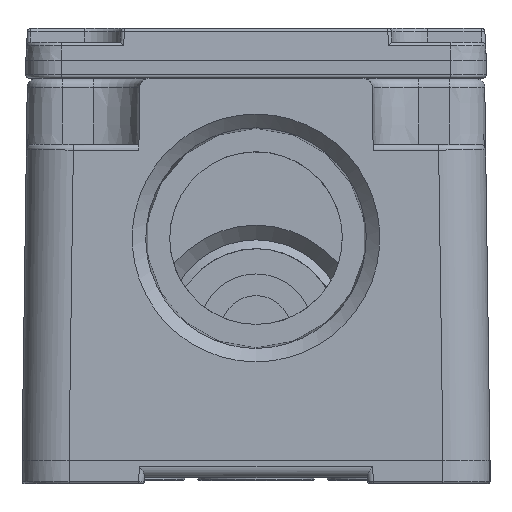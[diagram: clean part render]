
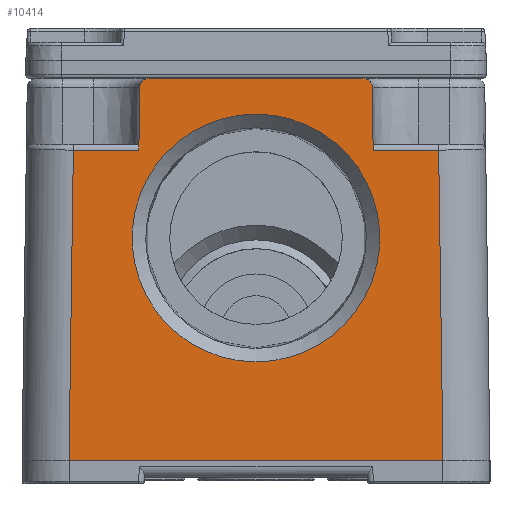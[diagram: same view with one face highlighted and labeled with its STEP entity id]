
A CAD part, left-side view. The second image highlights one B-rep face of the part: STEP entity #10414.
In plain terms, the highlighted planar face has unit normal (-1, 0, 0.011).
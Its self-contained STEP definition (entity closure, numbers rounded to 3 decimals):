
#7232 = VERTEX_POINT('',#7233);
#7233 = CARTESIAN_POINT('',(-26.671,8.705,
    17.42));
#7239 = EDGE_CURVE('',#7232,#7240,#7242,.T.);
#7240 = VERTEX_POINT('',#7241);
#7241 = CARTESIAN_POINT('',(-26.671,-9.482,
    17.42));
#7242 = LINE('',#7243,#7244);
#7243 = CARTESIAN_POINT('',(-26.671,-0.389,
    17.42));
#7244 = VECTOR('',#7245,1.);
#7245 = DIRECTION('',(0.,-1.,0.));
#7398 = EDGE_CURVE('',#7399,#7401,#7403,.T.);
#7399 = VERTEX_POINT('',#7400);
#7400 = CARTESIAN_POINT('',(-26.735,15.156,11.325
    ));
#7401 = VERTEX_POINT('',#7402);
#7402 = CARTESIAN_POINT('',(-27.011,15.525,
    -15.08));
#7403 = LINE('',#7404,#7405);
#7404 = CARTESIAN_POINT('',(-27.009,15.522,
    -14.858));
#7405 = VECTOR('',#7406,1.);
#7406 = DIRECTION('',(-0.01,0.014,
    -1.));
#8994 = VERTEX_POINT('',#8995);
#8995 = CARTESIAN_POINT('',(-27.011,-16.302,
    -15.08));
#9001 = EDGE_CURVE('',#8994,#7401,#9002,.T.);
#9002 = LINE('',#9003,#9004);
#9003 = CARTESIAN_POINT('',(-27.011,-0.389,
    -15.08));
#9004 = VECTOR('',#9005,1.);
#9005 = DIRECTION('',(0.,1.,0.));
#10414 = ADVANCED_FACE('',(#10415,#10440),#10499,.F.);
#10415 = FACE_BOUND('',#10416,.T.);
#10416 = EDGE_LOOP('',(#10417));
#10417 = ORIENTED_EDGE('',*,*,#10418,.T.);
#10418 = EDGE_CURVE('',#10419,#10419,#10421,.T.);
#10419 = VERTEX_POINT('',#10420);
#10420 = CARTESIAN_POINT('',(-26.924,-0.389,
    -6.704));
#10421 = B_SPLINE_CURVE_WITH_KNOTS('',3,(#10422,#10423,#10424,#10425,
    #10426,#10427,#10428,#10429,#10430,#10431,#10432,#10433,#10434,
    #10435,#10436,#10437,#10438,#10439),.UNSPECIFIED.,.T.,.F.,(2,2,2,2,2
    ,2,2,2,2,2,2),(-0.125,0.,0.125,0.25,0.375,0.5,0.625,0.75,0.875,1.,
    1.125),.UNSPECIFIED.);
#10422 = CARTESIAN_POINT('',(-26.924,-3.153,
    -6.704));
#10423 = CARTESIAN_POINT('',(-26.924,2.375,
    -6.704));
#10424 = CARTESIAN_POINT('',(-26.912,5.112,
    -5.571));
#10425 = CARTESIAN_POINT('',(-26.871,9.02,
    -1.662));
#10426 = CARTESIAN_POINT('',(-26.842,10.154,
    1.074));
#10427 = CARTESIAN_POINT('',(-26.784,10.154,
    6.602));
#10428 = CARTESIAN_POINT('',(-26.756,9.02,
    9.339));
#10429 = CARTESIAN_POINT('',(-26.715,5.112,
    13.247));
#10430 = CARTESIAN_POINT('',(-26.703,2.375,
    14.381));
#10431 = CARTESIAN_POINT('',(-26.703,-3.153,
    14.381));
#10432 = CARTESIAN_POINT('',(-26.715,-5.889,
    13.247));
#10433 = CARTESIAN_POINT('',(-26.756,-9.798,
    9.339));
#10434 = CARTESIAN_POINT('',(-26.784,-10.931,
    6.602));
#10435 = CARTESIAN_POINT('',(-26.842,-10.931,
    1.074));
#10436 = CARTESIAN_POINT('',(-26.871,-9.798,
    -1.662));
#10437 = CARTESIAN_POINT('',(-26.912,-5.889,
    -5.571));
#10438 = CARTESIAN_POINT('',(-26.924,-3.153,
    -6.704));
#10439 = CARTESIAN_POINT('',(-26.924,2.375,
    -6.704));
#10440 = FACE_BOUND('',#10441,.T.);
#10441 = EDGE_LOOP('',(#10442,#10443,#10452,#10460,#10466,#10467,#10468,
    #10476,#10484,#10492));
#10442 = ORIENTED_EDGE('',*,*,#7239,.F.);
#10443 = ORIENTED_EDGE('',*,*,#10444,.T.);
#10444 = EDGE_CURVE('',#7232,#10445,#10447,.T.);
#10445 = VERTEX_POINT('',#10446);
#10446 = CARTESIAN_POINT('',(-26.679,9.505,
    16.631));
#10447 = ELLIPSE('',#10448,0.8,0.8);
#10448 = AXIS2_PLACEMENT_3D('',#10449,#10450,#10451);
#10449 = CARTESIAN_POINT('',(-26.679,8.705,
    16.62));
#10450 = DIRECTION('',(-1.,0.,
    0.01));
#10451 = DIRECTION('',(0.01,0.,
    1.));
#10452 = ORIENTED_EDGE('',*,*,#10453,.T.);
#10453 = EDGE_CURVE('',#10445,#10454,#10456,.T.);
#10454 = VERTEX_POINT('',#10455);
#10455 = CARTESIAN_POINT('',(-26.735,9.58,
    11.325));
#10456 = LINE('',#10457,#10458);
#10457 = CARTESIAN_POINT('',(-27.01,9.951,
    -14.934));
#10458 = VECTOR('',#10459,1.);
#10459 = DIRECTION('',(-0.01,0.014,
    -1.));
#10460 = ORIENTED_EDGE('',*,*,#10461,.T.);
#10461 = EDGE_CURVE('',#10454,#7399,#10462,.T.);
#10462 = LINE('',#10463,#10464);
#10463 = CARTESIAN_POINT('',(-26.735,15.149,
    11.325));
#10464 = VECTOR('',#10465,1.);
#10465 = DIRECTION('',(0.,1.,0.));
#10466 = ORIENTED_EDGE('',*,*,#7398,.T.);
#10467 = ORIENTED_EDGE('',*,*,#9001,.F.);
#10468 = ORIENTED_EDGE('',*,*,#10469,.F.);
#10469 = EDGE_CURVE('',#10470,#8994,#10472,.T.);
#10470 = VERTEX_POINT('',#10471);
#10471 = CARTESIAN_POINT('',(-26.735,-15.933,
    11.325));
#10472 = LINE('',#10473,#10474);
#10473 = CARTESIAN_POINT('',(-27.008,-16.298,
    -14.778));
#10474 = VECTOR('',#10475,1.);
#10475 = DIRECTION('',(-0.01,-0.014,
    -1.));
#10476 = ORIENTED_EDGE('',*,*,#10477,.T.);
#10477 = EDGE_CURVE('',#10470,#10478,#10480,.T.);
#10478 = VERTEX_POINT('',#10479);
#10479 = CARTESIAN_POINT('',(-26.735,-10.357,
    11.325));
#10480 = LINE('',#10481,#10482);
#10481 = CARTESIAN_POINT('',(-26.735,-0.389,
    11.325));
#10482 = VECTOR('',#10483,1.);
#10483 = DIRECTION('',(0.,1.,0.));
#10484 = ORIENTED_EDGE('',*,*,#10485,.T.);
#10485 = EDGE_CURVE('',#10478,#10486,#10488,.T.);
#10486 = VERTEX_POINT('',#10487);
#10487 = CARTESIAN_POINT('',(-26.679,-10.282,
    16.631));
#10488 = LINE('',#10489,#10490);
#10489 = CARTESIAN_POINT('',(-27.01,-10.729,
    -14.934));
#10490 = VECTOR('',#10491,1.);
#10491 = DIRECTION('',(0.01,0.014,
    1.));
#10492 = ORIENTED_EDGE('',*,*,#10493,.T.);
#10493 = EDGE_CURVE('',#10486,#7240,#10494,.T.);
#10494 = ELLIPSE('',#10495,0.8,0.8);
#10495 = AXIS2_PLACEMENT_3D('',#10496,#10497,#10498);
#10496 = CARTESIAN_POINT('',(-26.679,-9.482,
    16.62));
#10497 = DIRECTION('',(-1.,0.,0.01));
#10498 = DIRECTION('',(-0.01,0.,-1.));
#10499 = PLANE('',#10500);
#10500 = AXIS2_PLACEMENT_3D('',#10501,#10502,#10503);
#10501 = CARTESIAN_POINT('',(-27.011,-0.389,
    -15.08));
#10502 = DIRECTION('',(1.,0.,-0.01));
#10503 = DIRECTION('',(0.01,0.,1.));
